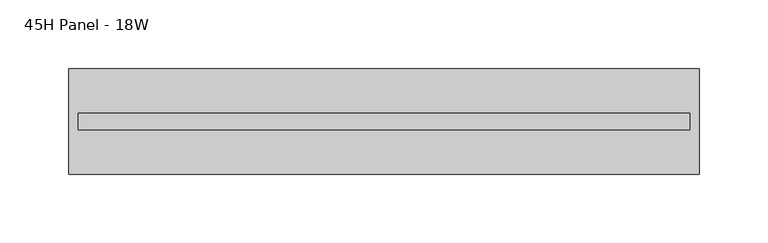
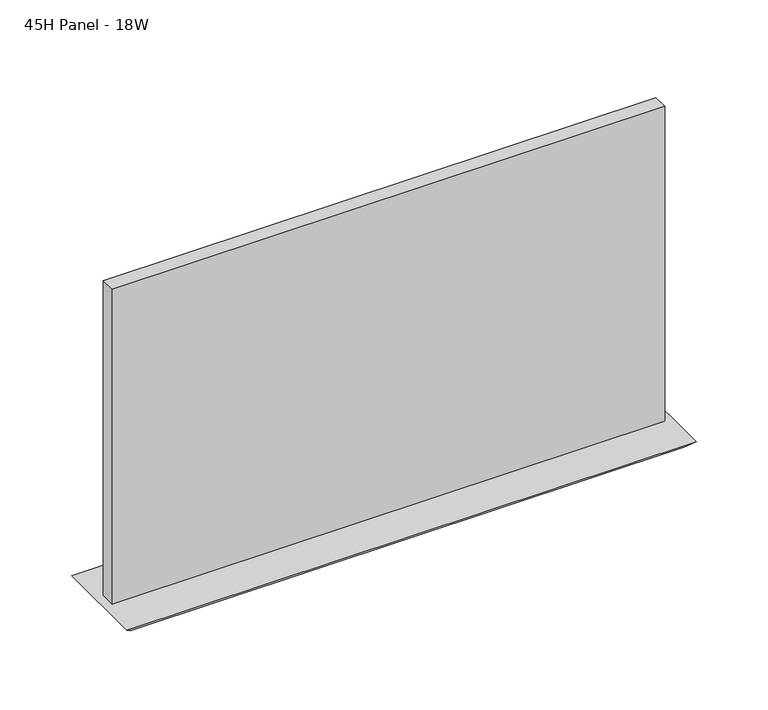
"""IFC4 building model written with IfcOpenShell, lengths in millimetres: furniture geometry, Steelcase - Montage - Tiles - 10H - Frameless Glass Stacker : 45H Panel - 18W."""

from ifc_helpers import new_model, si_unit, frame, origin, place, context, project, spatial, polyline, outline, extrude, faceted_brep, source, transform, mapped, element, save


def furniture_45h_panel_18w_7b0213ae(model_context):
    return source(origin(), model_context, "Body", "SolidModel", [
        faceted_brep([(457.2, -38.1000015, 1136.65), (0.0, -38.1000015, 1136.65), (6.35, -31.7500015, 1130.3), (450.85, -31.7500015, 1130.3), (6.35, 31.7500015, 1130.3), (450.85, 31.7500015, 1130.3), (0.0, 38.1000015, 1136.65), (457.2, 38.1000015, 1136.65)], [[[0, 1, 2, 3]], [[3, 2, 4, 5]], [[6, 7, 5, 4]], [[1, 0, 7, 6]], [[2, 1, 6, 4]], [[0, 3, 5, 7]]]),
        extrude(outline(polyline([(450.4181828, -5.9944001), (6.7818001, -5.9944001), (6.7818001, 5.9944008), (450.4181828, 5.9944008), (450.4181828, -5.9944001)])), frame((0.0, 0.0, 1136.65), z_axis=(0.0, 0.0, 1.0), x_axis=(1.0, 0.0, 0.0)), (0.0, 0.0, 1.0), 267.7160475),
    ])


if __name__ == "__main__":
    model = new_model("IFC4")
    model_context = context("Model", 3, world=origin())
    ifc_project = project(units=[si_unit("LENGTHUNIT", "METRE", prefix="MILLI")], contexts=[model_context])
    site = spatial("IfcSite", under=ifc_project)
    building = spatial("IfcBuilding", under=site)
    placement = place(None, origin())
    furniture_45h_panel_18w_shape = furniture_45h_panel_18w_7b0213ae(model_context)
    element("IfcFurniture", 1, ObjectType="Steelcase - Montage - Tiles - 10H - Frameless Glass Stacker : 45H Panel - 18W", at=placement, inside=building, context=model_context, shape_type="MappedRepresentation", body=[
        mapped(furniture_45h_panel_18w_shape, transform((0.0, 0.0, 0.0), x_axis=(1.0, 0.0, 0.0), y_axis=(0.0, 1.0, 0.0), z_axis=(0.0, 0.0, 1.0))),
    ])
    save(model, "model.ifc")
